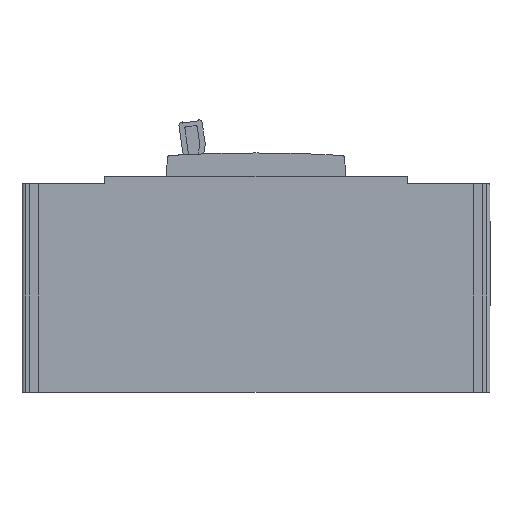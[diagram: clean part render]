
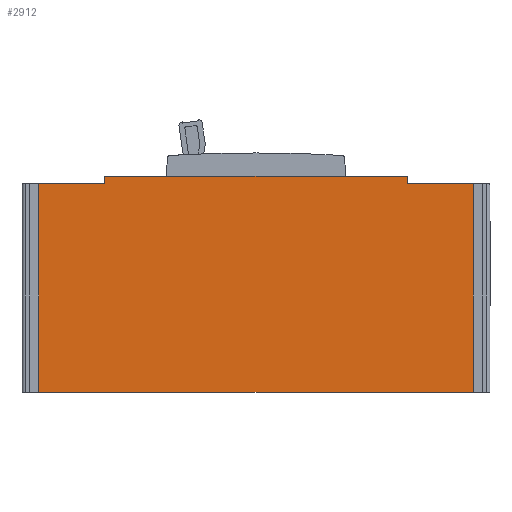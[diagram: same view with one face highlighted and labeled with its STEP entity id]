
A CAD part, left-side view. The second image highlights one B-rep face of the part: STEP entity #2912.
In plain terms, the highlighted planar face has unit normal (-1, 0, 0).
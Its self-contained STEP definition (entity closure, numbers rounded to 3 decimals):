
#110 = CARTESIAN_POINT ( 'NONE',  ( -12.5, -60.3, 0. ) ) ;
#129 = DIRECTION ( 'NONE',  ( 0., 1., 0. ) ) ;
#132 = LINE ( 'NONE', #4125, #745 ) ;
#161 = CARTESIAN_POINT ( 'NONE',  ( -12.5, 60.3, 0. ) ) ;
#391 = LINE ( 'NONE', #5337, #3211 ) ;
#456 = VECTOR ( 'NONE', #5471, 1000. ) ;
#600 = CARTESIAN_POINT ( 'NONE',  ( -12.5, -60.3, 58. ) ) ;
#667 = PLANE ( 'NONE',  #836 ) ;
#701 = EDGE_LOOP ( 'NONE', ( #1985, #5103, #2144, #4261, #4938, #3028, #1991, #4572 ) ) ;
#745 = VECTOR ( 'NONE', #2347, 1000. ) ;
#790 = LINE ( 'NONE', #161, #2987 ) ;
#836 = AXIS2_PLACEMENT_3D ( 'NONE', #3763, #1117, #5087 ) ;
#1063 = VECTOR ( 'NONE', #1553, 1000. ) ;
#1117 = DIRECTION ( 'NONE',  ( 1., 0., 0. ) ) ;
#1134 = CARTESIAN_POINT ( 'NONE',  ( -12.5, 0., 58. ) ) ;
#1255 = LINE ( 'NONE', #5302, #2431 ) ;
#1352 = VERTEX_POINT ( 'NONE', #2356 ) ;
#1514 = LINE ( 'NONE', #1134, #1063 ) ;
#1553 = DIRECTION ( 'NONE',  ( 0., 1., 0. ) ) ;
#1632 = VERTEX_POINT ( 'NONE', #3146 ) ;
#1685 = DIRECTION ( 'NONE',  ( 0., 0., 1. ) ) ;
#1725 = CARTESIAN_POINT ( 'NONE',  ( -12.5, 0., 60. ) ) ;
#1985 = ORIENTED_EDGE ( 'NONE', *, *, #4912, .T. ) ;
#1991 = ORIENTED_EDGE ( 'NONE', *, *, #5350, .F. ) ;
#2028 = VERTEX_POINT ( 'NONE', #3407 ) ;
#2115 = CARTESIAN_POINT ( 'NONE',  ( -12.5, -42., 0. ) ) ;
#2144 = ORIENTED_EDGE ( 'NONE', *, *, #4621, .T. ) ;
#2347 = DIRECTION ( 'NONE',  ( 0., 0., -1. ) ) ;
#2355 = VERTEX_POINT ( 'NONE', #3811 ) ;
#2356 = CARTESIAN_POINT ( 'NONE',  ( -12.5, 42., 60. ) ) ;
#2357 = CARTESIAN_POINT ( 'NONE',  ( -12.5, 0., 58. ) ) ;
#2364 = EDGE_CURVE ( 'NONE', #5014, #2028, #1514, .T. ) ;
#2431 = VECTOR ( 'NONE', #3546, 1000. ) ;
#2696 = VERTEX_POINT ( 'NONE', #5383 ) ;
#2850 = LINE ( 'NONE', #1725, #4411 ) ;
#2891 = CARTESIAN_POINT ( 'NONE',  ( -12.5, 60.3, 0. ) ) ;
#2912 = ADVANCED_FACE ( 'NONE', ( #4094 ), #667, .F. ) ;
#2987 = VECTOR ( 'NONE', #4521, 1000. ) ;
#3028 = ORIENTED_EDGE ( 'NONE', *, *, #5099, .T. ) ;
#3115 = VERTEX_POINT ( 'NONE', #110 ) ;
#3146 = CARTESIAN_POINT ( 'NONE',  ( -12.5, 60.3, 58. ) ) ;
#3211 = VECTOR ( 'NONE', #4943, 1000. ) ;
#3407 = CARTESIAN_POINT ( 'NONE',  ( -12.5, -42., 58. ) ) ;
#3493 = LINE ( 'NONE', #2115, #4198 ) ;
#3546 = DIRECTION ( 'NONE',  ( 0., -1., 0. ) ) ;
#3722 = EDGE_CURVE ( 'NONE', #5669, #3115, #1255, .T. ) ;
#3763 = CARTESIAN_POINT ( 'NONE',  ( -12.5, 0., 0. ) ) ;
#3811 = CARTESIAN_POINT ( 'NONE',  ( -12.5, 42., 58. ) ) ;
#3835 = EDGE_CURVE ( 'NONE', #1352, #2355, #132, .T. ) ;
#4094 = FACE_OUTER_BOUND ( 'NONE', #701, .T. ) ;
#4125 = CARTESIAN_POINT ( 'NONE',  ( -12.5, 42., 0. ) ) ;
#4198 = VECTOR ( 'NONE', #1685, 1000. ) ;
#4261 = ORIENTED_EDGE ( 'NONE', *, *, #4724, .T. ) ;
#4338 = LINE ( 'NONE', #2357, #456 ) ;
#4411 = VECTOR ( 'NONE', #129, 1000. ) ;
#4521 = DIRECTION ( 'NONE',  ( 0., 0., 1. ) ) ;
#4572 = ORIENTED_EDGE ( 'NONE', *, *, #3722, .T. ) ;
#4621 = EDGE_CURVE ( 'NONE', #2028, #2696, #3493, .T. ) ;
#4724 = EDGE_CURVE ( 'NONE', #2696, #1352, #2850, .T. ) ;
#4912 = EDGE_CURVE ( 'NONE', #3115, #5014, #391, .T. ) ;
#4938 = ORIENTED_EDGE ( 'NONE', *, *, #3835, .T. ) ;
#4943 = DIRECTION ( 'NONE',  ( 0., 0., 1. ) ) ;
#5014 = VERTEX_POINT ( 'NONE', #600 ) ;
#5087 = DIRECTION ( 'NONE',  ( 0., 0., -1. ) ) ;
#5099 = EDGE_CURVE ( 'NONE', #2355, #1632, #4338, .T. ) ;
#5103 = ORIENTED_EDGE ( 'NONE', *, *, #2364, .T. ) ;
#5302 = CARTESIAN_POINT ( 'NONE',  ( -12.5, 0., 0. ) ) ;
#5337 = CARTESIAN_POINT ( 'NONE',  ( -12.5, -60.3, 0. ) ) ;
#5350 = EDGE_CURVE ( 'NONE', #5669, #1632, #790, .T. ) ;
#5383 = CARTESIAN_POINT ( 'NONE',  ( -12.5, -42., 60. ) ) ;
#5471 = DIRECTION ( 'NONE',  ( 0., 1., 0. ) ) ;
#5669 = VERTEX_POINT ( 'NONE', #2891 ) ;
